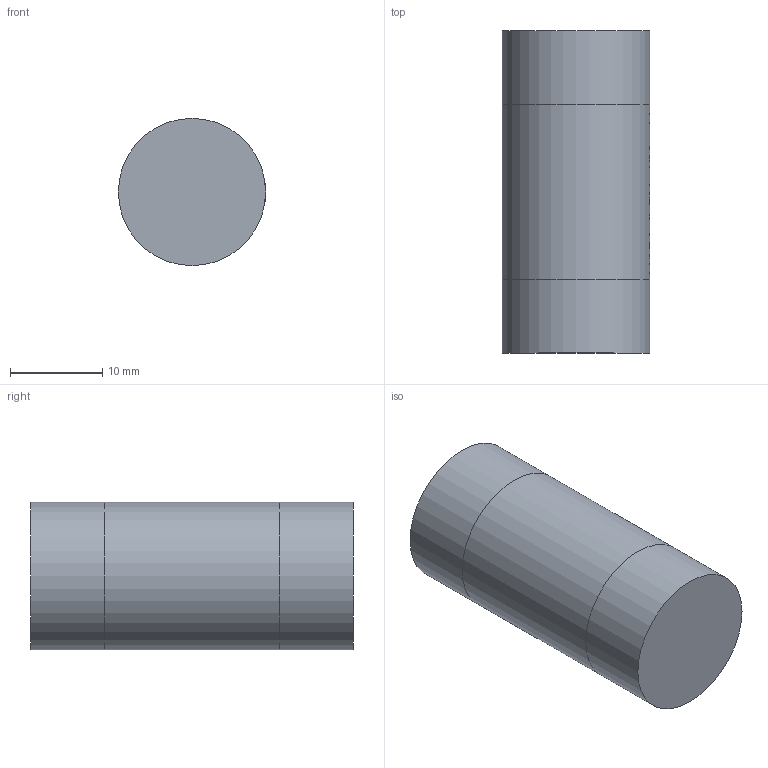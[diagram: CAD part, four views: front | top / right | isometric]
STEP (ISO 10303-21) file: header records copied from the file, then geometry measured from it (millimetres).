
FILE_DESCRIPTION(('FreeCAD Model'),'2;1');
FILE_NAME('Open CASCADE Shape Model','2023-05-06T18:44:57',('Author'),( ''),'Open CASCADE STEP processor 7.5','FreeCAD','Unknown');
FILE_SCHEMA(('AUTOMOTIVE_DESIGN { 1 0 10303 214 1 1 1 1 }'));
Length unit declared in the file: millimetre
Products named in the file (1): ACB_16350 3.7v 650mAh
Bounding box: 16 x 35 x 16 mm (x, y, z)
Volume: 7037.1 mm3; surface area: 2965.7 mm2
Topology: 3 solids, 3 shells, 29 faces, 252 edges, 249 vertices
Faces by surface type: cylinder 23, plane 6
Full cylindrical faces by diameter (mm): 16 x3
Entity records: 4709 total; most frequent: CARTESIAN_POINT 2742, ORIENTED_EDGE 498, VERTEX_POINT 249, EDGE_CURVE 249, DIRECTION 179, B_SPLINE_CURVE_WITH_KNOTS 171, AXIS2_PLACEMENT_3D 71, EDGE_LOOP 52
